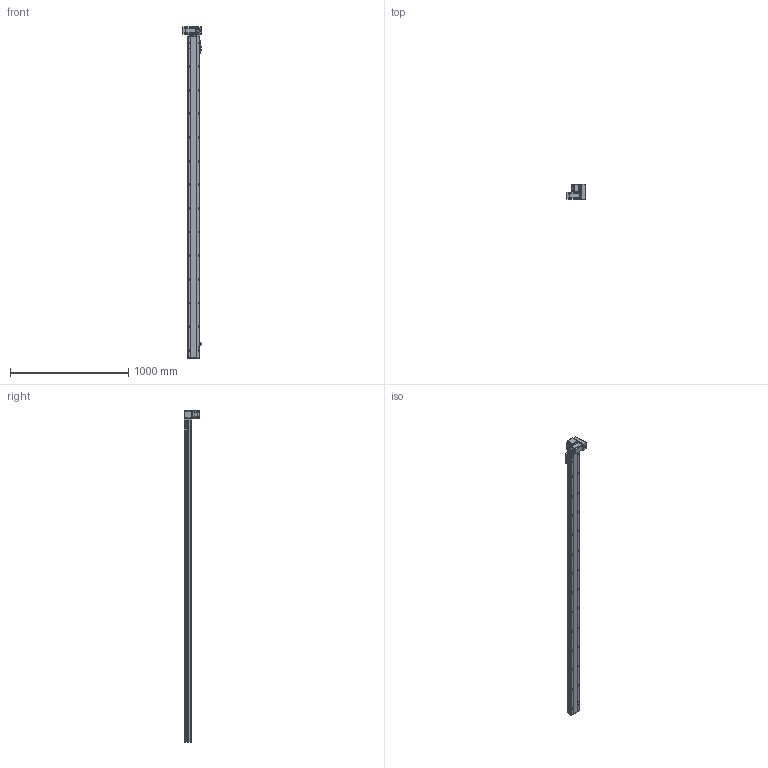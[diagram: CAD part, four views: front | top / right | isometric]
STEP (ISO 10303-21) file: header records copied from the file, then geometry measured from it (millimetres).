
FILE_DESCRIPTION (( 'STEP AP214' ), '1' );
FILE_NAME ('TPT10-L41.6-2500-RD-T20-C4.STEP', '2023-03-02T08:03:06', ( '' ), ( '' ), 'SwSTEP 2.0', 'SolidWorks 2020', '' );
FILE_SCHEMA (( 'AUTOMOTIVE_DESIGN' ));
Length unit declared in the file: millimetre
Products named in the file (11): hexagon head bolts-full thread gb_GB_FASTENER_BOLT_STBAB A M5X16-N; 葩璃 TPT10-L-007 々湍釱MZ-169x88^TPT10-L41.6-RD-T20-C4_L; 葩璃 TPT10-L-001 菁釱MZ-102A-01^TPT10-L41.6-RD-T20-C4; 葩璃 TPT10-L-009 萇儂啣^TPT10-L41.6-RD-T20-C4_100W; hexagon socket head cap screws gb_GB_FASTENER_SCREWS_HSHCS M3X6-N; TPT10-L41.6-2500-RD-T20-C4; hex nuts, style 1-grades ab gb_GB_FASTENER_NUT_SNAB1 M3-N; 侂狟400W; 葩璃 TPT10-L-005 賑釱MZ-102A-03^TPT10-L41.6-RD-T20-C4; 葩璃 TPT10-L-002 奻裔MZ-102A-02^TPT10-L41.6-RD-T20-C4; 葩璃 pm-t65-672^TPT10-L41.6-RD-T20-C4
Assembly tree (22 placements, depth 2):
  TPT10-L41.6-2500-RD-T20-C4
    葩璃 TPT10-L-001 菁釱MZ-102A-01^TPT10-L41.6-RD-T20-C4
    葩璃 TPT10-L-002 奻裔MZ-102A-02^TPT10-L41.6-RD-T20-C4
    葩璃 TPT10-L-007 々湍釱MZ-169x88^TPT10-L41.6-RD-T20-C4_L
    葩璃 TPT10-L-005 賑釱MZ-102A-03^TPT10-L41.6-RD-T20-C4
    葩璃 TPT10-L-009 萇儂啣^TPT10-L41.6-RD-T20-C4_100W
    葩璃 pm-t65-672^TPT10-L41.6-RD-T20-C4  x3
    侂狟400W
    hexagon head bolts-full thread gb_GB_FASTENER_BOLT_STBAB A M5X16-N
    hexagon socket head cap screws gb_GB_FASTENER_SCREWS_HSHCS M3X6-N  x6
    hex nuts, style 1-grades ab gb_GB_FASTENER_NUT_SNAB1 M3-N  x6
Bounding box: 160.7 x 134.65 x 2810 mm (x, y, z)
Volume: 8723768.5 mm3; surface area: 1675201.7 mm2
Topology: 30 solids, 30 shells, 1858 faces, 4885 edges, 3098 vertices
Faces by surface type: plane 994, cylinder 608, cone 218, bspline 26, torus 12
Entity records: 47071 total; most frequent: CARTESIAN_POINT 9356, DIRECTION 7590, ORIENTED_EDGE 7326, EDGE_CURVE 3663, AXIS2_PLACEMENT_3D 2683, VERTEX_POINT 2389, LINE 2224, VECTOR 2224
